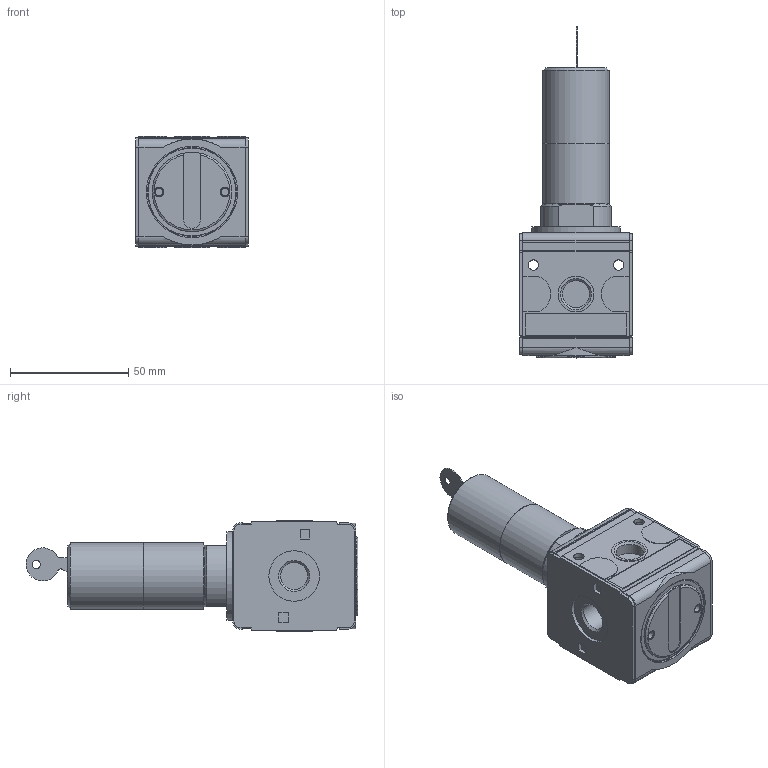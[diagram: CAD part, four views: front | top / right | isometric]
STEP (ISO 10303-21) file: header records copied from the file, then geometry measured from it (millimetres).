
FILE_DESCRIPTION( ( 'STEP AP214' ), '1' );
FILE_NAME( 'p:/temp/worker_25/temp/app_43_02018112909273108246384192d056f_000000_00_00_000000/format_0/9.1711.004.stp', '2018-11-29T08:27:32', ( '' ), ( '' ), ' ', 'PARTsolutions', ' ' );
FILE_SCHEMA( ( 'AUTOMOTIVE_DESIGN { 1 0 10303 214 1 1 1 1 }' ) );
Length unit declared in the file: millimetre
Products named in the file (2): 9.1711.004; _R 11 - 3-10020-G
Assembly tree (1 placements, depth 2):
  9.1711.004
    _R 11 - 3-10020-G
Bounding box: 47.8 x 140.5 x 47 mm (x, y, z)
Volume: 153425.2 mm3; surface area: 23990.7 mm2
Topology: 1 solids, 1 shells, 212 faces, 501 edges, 331 vertices
Faces by surface type: plane 142, cylinder 51, cone 18, torus 1
Full cylindrical faces by diameter (mm): 3.2 x2, 3.5 x1, 4 x2, 4.4 x4, 11.445 x3, 15.1 x2, 15.7 x1, 19.2 x1, 21.4 x2, 24 x1, 28 x2, 33.7 x1, 37.5 x1, 37.6 x1, 38.6 x1
Entity records: 7626 total; most frequent: CARTESIAN_POINT 1082, DIRECTION 992, ORIENTED_EDGE 906, EDGE_CURVE 453, AXIS2_PLACEMENT_3D 335, VERTEX_POINT 325, LINE 322, VECTOR 322
